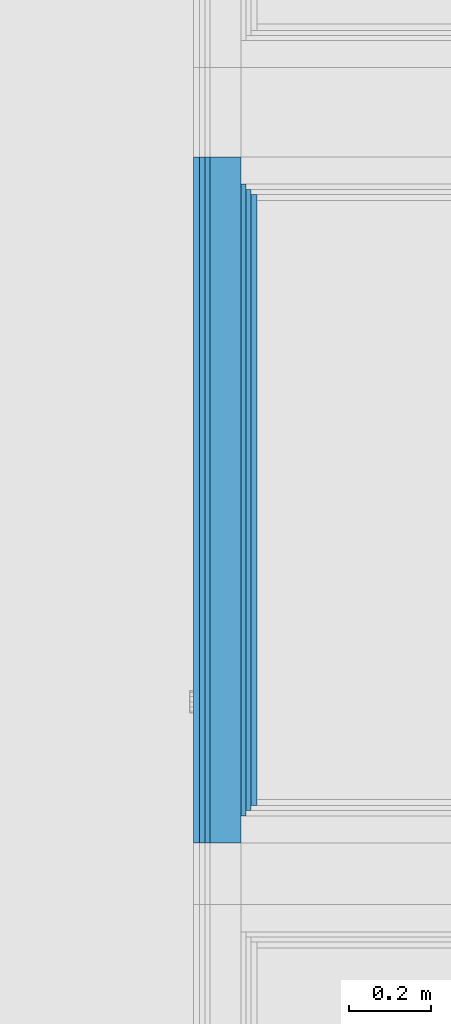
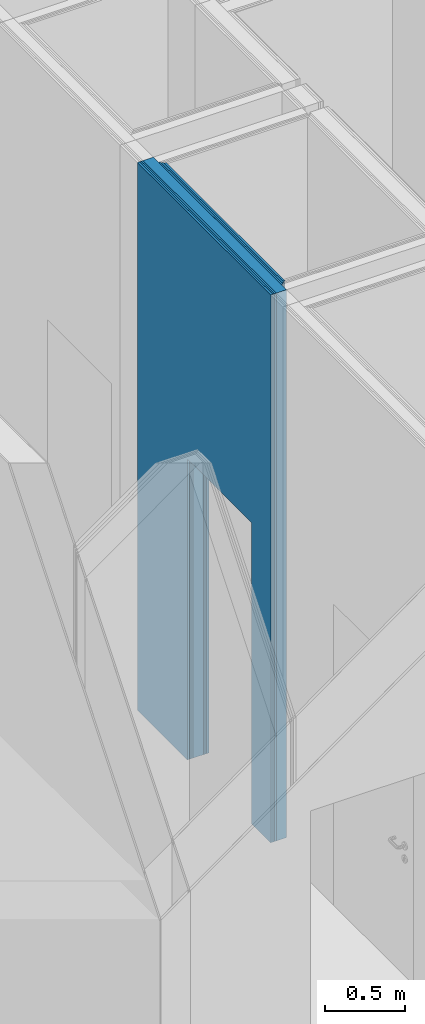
# One storey, part 59 of 260: 7 building element parts, 1 opening, 1 element without a shape of its own.
"""IFC2X3 building model written with IfcOpenShell, lengths in millimetres."""

from ifc_helpers import new_model, entity, si_unit, converted_unit, derived_unit, money_unit, direction, frame, origin_with_axes, place, context, subcontext, project, spatial, faceted_brep, material, type_object, element, aggregate, save


model = new_model("IFC2X3")

# Units and contexts
model_context = context("Model", 3, precision=0.01, world=origin_with_axes(), true_north=direction((0.0, 1.0)))
body_context = subcontext(model_context, "Body", "Model", "MODEL_VIEW")
ifc_project = project(units=[si_unit("LENGTHUNIT", "METRE", prefix="MILLI"), si_unit("AREAUNIT", "SQUARE_METRE"), si_unit("VOLUMEUNIT", "CUBIC_METRE"), converted_unit("PLANEANGLEUNIT", "DEGREE", entity("IfcPlaneAngleMeasure", 0.0174532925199), si_unit("PLANEANGLEUNIT", "RADIAN"), dimensions=[0, 0, 0, 0, 0, 0, 0]), money_unit("EUR"), converted_unit("TIMEUNIT", "Year", entity("IfcTimeMeasure", 31556926.0), si_unit("TIMEUNIT", "SECOND"), dimensions=[0, 0, 1, 0, 0, 0, 0]), si_unit("MASSUNIT", "GRAM", prefix="KILO"), si_unit("THERMODYNAMICTEMPERATUREUNIT", "DEGREE_CELSIUS"), si_unit("LUMINOUSINTENSITYUNIT", "LUMEN"), si_unit("ENERGYUNIT", "JOULE", prefix="MEGA"), derived_unit("THERMALCONDUCTANCEUNIT", [(si_unit("POWERUNIT", "WATT"), 1), (si_unit("LENGTHUNIT", "METRE"), -1), (si_unit("THERMODYNAMICTEMPERATUREUNIT", "KELVIN"), -1)]), derived_unit("SPECIFICHEATCAPACITYUNIT", [(si_unit("ENERGYUNIT", "JOULE"), 1), (si_unit("MASSUNIT", "GRAM", prefix="KILO"), -1), (si_unit("THERMODYNAMICTEMPERATUREUNIT", "KELVIN"), -1)]), derived_unit("MASSDENSITYUNIT", [(si_unit("MASSUNIT", "GRAM", prefix="KILO"), 1), (si_unit("VOLUMEUNIT", "CUBIC_METRE"), -1)])], contexts=[model_context])

# Site, building, storey
site_placement = place(None, origin_with_axes())
site = spatial("IfcSite", under=ifc_project, at=site_placement, Name="Kolde pst 67a", CompositionType="ELEMENT")
building_placement = place(site_placement, origin_with_axes())
building = spatial("IfcBuilding", under=site, at=building_placement, Name="Riigigümnaasium", CompositionType="ELEMENT")
storey_placement = place(building_placement, origin_with_axes())
storey = spatial("IfcBuildingStorey", under=building, at=storey_placement, Name="1. korrus", CompositionType="ELEMENT", Elevation=0.0)

# Wall, opening, building element parts
wall_type = type_object("IfcWallType", Name="SS-MK-7,5/1_plaaditud 155", PredefinedType="NOTDEFINED")
wall_placement = place(storey_placement, frame((66260.8875355, 13356.4982199, 0.0), z_axis=(0.0, 0.0, 1.0), x_axis=(0.0, 1.0, 0.0)))
wall = element("IfcWall", 1, at=wall_placement, inside=storey, type_object=wall_type, Name="Sisesein")
opening_placement = place(wall_placement, frame((643.501749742, 0.0, 0.0), z_axis=(0.0, 0.0, 1.0), x_axis=(1.0, 0.0, 0.0)))
element("IfcOpeningElement", 2, at=opening_placement, cuts=wall, Name="Siseuks", context=body_context, shape_type="Brep", body=[
    faceted_brep([(400.0, -155.0, 2300.0), (400.0, -155.0, 0.0), (400.0, 310.0, 0.0), (400.0, 310.0, 2300.0), (-400.0, -155.0, 2300.0), (-400.0, -155.0, 0.0), (-400.0, 310.0, 0.0), (-400.0, 310.0, 2300.0)], [[[0, 1, 2, 3]], [[0, 4, 5, 1]], [[1, 5, 6, 2]], [[3, 2, 6, 7]], [[4, 0, 3, 7]], [[5, 4, 7, 6]]]),
])
ifc_material_1 = material(Name="_VIIMISTLUSKIHT - viimistlus vastavalt SA osale")
building_element_part_1_placement = place(wall_placement, origin_with_axes())
building_element_part_1 = element("IfcBuildingElementPart", 3, at=building_element_part_1_placement, material=ifc_material_1, Name="_VIIMISTLUSKIHT - viimistlus vastavalt SA osale", context=body_context, shape_type="Brep", body=[
    faceted_brep([(243.501749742, -15.0, 0.0), (243.501749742, -15.0, 2300.0), (1043.50174974, -15.0, 2300.0), (1043.50174974, -15.0, 0.0), (1669.5786288, -15.0, 0.0), (1669.5786288, -15.0, 4185.0), (0.0, -15.0, 4185.0), (0.0, -15.0, 0.0), (243.501749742, 0.0, 0.0), (243.501749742, 0.0, 2300.0), (1043.50174974, 0.0, 2300.0), (1043.50174974, 0.0, 0.0), (1669.5786288, 0.0, 0.0), (1669.5786288, 0.0, 4185.0), (0.0, 0.0, 4185.0), (0.0, 0.0, 0.0)], [[[0, 1, 2, 3, 4, 5, 6, 7]], [[1, 0, 8, 9]], [[2, 1, 9, 10]], [[3, 2, 10, 11]], [[3, 11, 12, 4]], [[5, 4, 12, 13]], [[5, 13, 14, 6]], [[14, 15, 7, 6]], [[8, 0, 7, 15]], [[9, 8, 15, 14, 13, 12, 11, 10]]]),
])
ifc_material_2 = material(Name="_PLAATMATERJAL - kipsplaat veekindel")
building_element_part_2_placement = place(wall_placement, origin_with_axes())
building_element_part_2 = element("IfcBuildingElementPart", 4, at=building_element_part_2_placement, material=ifc_material_2, Name="_PLAATMATERJAL - kipsplaat veekindel", context=body_context, shape_type="Brep", body=[
    faceted_brep([(243.501749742, -27.5, 0.0), (243.501749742, -27.5, 2300.0), (1043.50174974, -27.5, 2300.0), (1043.50174974, -27.5, 0.0), (1669.5786288, -27.5, 0.0), (1669.5786288, -27.5, 4185.0), (0.0, -27.5, 4185.0), (0.0, -27.5, 0.0), (243.501749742, -15.0, 0.0), (243.501749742, -15.0, 2300.0), (1043.50174974, -15.0, 2300.0), (1043.50174974, -15.0, 0.0), (1669.5786288, -15.0, 0.0), (1669.5786288, -15.0, 4185.0), (0.0, -15.0, 4185.0), (0.0, -15.0, 0.0)], [[[0, 1, 2, 3, 4, 5, 6, 7]], [[1, 0, 8, 9]], [[2, 1, 9, 10]], [[3, 2, 10, 11]], [[3, 11, 12, 4]], [[5, 4, 12, 13]], [[5, 13, 14, 6]], [[14, 15, 7, 6]], [[8, 0, 7, 15]], [[9, 8, 15, 14, 13, 12, 11, 10]]]),
])
building_element_part_3_placement = place(wall_placement, origin_with_axes())
building_element_part_3 = element("IfcBuildingElementPart", 5, at=building_element_part_3_placement, material=ifc_material_2, Name="_PLAATMATERJAL - kipsplaat veekindel", context=body_context, shape_type="Brep", body=[
    faceted_brep([(243.501749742, -40.0, 0.0), (243.501749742, -40.0, 2300.0), (1043.50174974, -40.0, 2300.0), (1043.50174974, -40.0, 0.0), (1669.5786288, -40.0, 0.0), (1669.5786288, -40.0, 4185.0), (0.0, -40.0, 4185.0), (0.0, -40.0, 0.0), (243.501749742, -27.5, 0.0), (243.501749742, -27.5, 2300.0), (1043.50174974, -27.5, 2300.0), (1043.50174974, -27.5, 0.0), (1669.5786288, -27.5, 0.0), (1669.5786288, -27.5, 4185.0), (0.0, -27.5, 4185.0), (0.0, -27.5, 0.0)], [[[0, 1, 2, 3, 4, 5, 6, 7]], [[1, 0, 8, 9]], [[2, 1, 9, 10]], [[3, 2, 10, 11]], [[3, 11, 12, 4]], [[5, 4, 12, 13]], [[5, 13, 14, 6]], [[14, 15, 7, 6]], [[8, 0, 7, 15]], [[9, 8, 15, 14, 13, 12, 11, 10]]]),
])
ifc_material_3 = material(Name="_KARKASS - metallkarkass CW 75/50, mineraalvill karkassi vahel")
building_element_part_4_placement = place(wall_placement, origin_with_axes())
building_element_part_4 = element("IfcBuildingElementPart", 6, at=building_element_part_4_placement, material=ifc_material_3, Name="_KARKASS - metallkarkass CW 75/50, mineraalvill karkassi vahel", context=body_context, shape_type="Brep", body=[
    faceted_brep([(243.501749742, -115.0, 0.0), (243.501749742, -115.0, 2300.0), (1043.50174974, -115.0, 2300.0), (1043.50174974, -115.0, 0.0), (1669.5786288, -115.0, 0.0), (1669.5786288, -115.0, 4185.0), (0.0, -115.0, 4185.0), (0.0, -115.0, 0.0), (243.501749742, -40.0, 0.0), (243.501749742, -40.0, 2300.0), (1043.50174974, -40.0, 2300.0), (1043.50174974, -40.0, 0.0), (1669.5786288, -40.0, 0.0), (1669.5786288, -40.0, 4185.0), (0.0, -40.0, 4185.0), (0.0, -40.0, 0.0)], [[[0, 1, 2, 3, 4, 5, 6, 7]], [[1, 0, 8, 9]], [[2, 1, 9, 10]], [[3, 2, 10, 11]], [[3, 11, 12, 4]], [[5, 4, 12, 13]], [[5, 13, 14, 6]], [[14, 15, 7, 6]], [[8, 0, 7, 15]], [[9, 8, 15, 14, 13, 12, 11, 10]]]),
])
building_element_part_5_placement = place(wall_placement, origin_with_axes())
building_element_part_5 = element("IfcBuildingElementPart", 7, at=building_element_part_5_placement, material=ifc_material_2, Name="_PLAATMATERJAL - kipsplaat veekindel", context=body_context, shape_type="Brep", body=[
    faceted_brep([(243.501749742, -127.5, 0.0), (243.501749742, -127.5, 2300.0), (1043.50174974, -127.5, 2300.0), (1043.50174974, -127.5, 0.0), (1603.57863789, -127.5, 0.0), (1603.57863789, -127.5, 4185.0), (66.0000090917, -127.5, 4185.0), (66.0000090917, -127.5, 0.0), (243.501749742, -115.0, 0.0), (243.501749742, -115.0, 2300.0), (1043.50174974, -115.0, 2300.0), (1043.50174974, -115.0, 0.0), (1603.5786288, -115.0, 0.0), (1603.5786288, -115.0, 4185.0), (66.0, -115.0, 4185.0), (66.0, -115.0, 0.0)], [[[0, 1, 2, 3, 4, 5, 6, 7]], [[1, 0, 8, 9]], [[2, 1, 9, 10]], [[3, 2, 10, 11]], [[3, 11, 12, 4]], [[5, 4, 12, 13]], [[5, 13, 14, 6]], [[14, 15, 7, 6]], [[8, 0, 7, 15]], [[9, 8, 15, 14, 13, 12, 11, 10]]]),
])
building_element_part_6_placement = place(wall_placement, origin_with_axes())
building_element_part_6 = element("IfcBuildingElementPart", 8, at=building_element_part_6_placement, material=ifc_material_2, Name="_PLAATMATERJAL - kipsplaat veekindel", context=body_context, shape_type="Brep", body=[
    faceted_brep([(243.501749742, -140.0, 0.0), (243.501749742, -140.0, 2300.0), (1043.50174974, -140.0, 2300.0), (1043.50174974, -140.0, 0.0), (1591.07864698, -140.0, 0.0), (1591.07864698, -140.0, 4185.0), (78.5000181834, -140.0, 4185.0), (78.5000181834, -140.0, 0.0), (243.501749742, -127.5, 0.0), (243.501749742, -127.5, 2300.0), (1043.50174974, -127.5, 2300.0), (1043.50174974, -127.5, 0.0), (1591.07863789, -127.5, 0.0), (1591.07863789, -127.5, 4185.0), (78.5000090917, -127.5, 4185.0), (78.5000090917, -127.5, 0.0)], [[[0, 1, 2, 3, 4, 5, 6, 7]], [[1, 0, 8, 9]], [[2, 1, 9, 10]], [[3, 2, 10, 11]], [[3, 11, 12, 4]], [[5, 4, 12, 13]], [[5, 13, 14, 6]], [[14, 15, 7, 6]], [[8, 0, 7, 15]], [[9, 8, 15, 14, 13, 12, 11, 10]]]),
])
building_element_part_7_placement = place(wall_placement, origin_with_axes())
building_element_part_7 = element("IfcBuildingElementPart", 9, at=building_element_part_7_placement, material=ifc_material_1, Name="_VIIMISTLUSKIHT - viimistlus vastavalt SA osale", context=body_context, shape_type="Brep", body=[
    faceted_brep([(243.501749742, -155.0, 0.0), (243.501749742, -155.0, 2300.0), (1043.50174974, -155.0, 2300.0), (1043.50174974, -155.0, 0.0), (1578.57865789, -155.0, 0.0), (1578.57865789, -155.0, 4185.0), (91.0000290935, -155.0, 4185.0), (91.0000290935, -155.0, 0.0), (243.501749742, -140.0, 0.0), (243.501749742, -140.0, 2300.0), (1043.50174974, -140.0, 2300.0), (1043.50174974, -140.0, 0.0), (1578.57864698, -140.0, 0.0), (1578.57864698, -140.0, 4185.0), (91.0000181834, -140.0, 4185.0), (91.0000181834, -140.0, 0.0)], [[[0, 1, 2, 3, 4, 5, 6, 7]], [[1, 0, 8, 9]], [[2, 1, 9, 10]], [[3, 2, 10, 11]], [[3, 11, 12, 4]], [[5, 4, 12, 13]], [[5, 13, 14, 6]], [[14, 15, 7, 6]], [[8, 0, 7, 15]], [[9, 8, 15, 14, 13, 12, 11, 10]]]),
])
aggregate(wall, [building_element_part_1, building_element_part_2, building_element_part_3, building_element_part_4, building_element_part_5, building_element_part_6, building_element_part_7])

save(model, "model.ifc")
